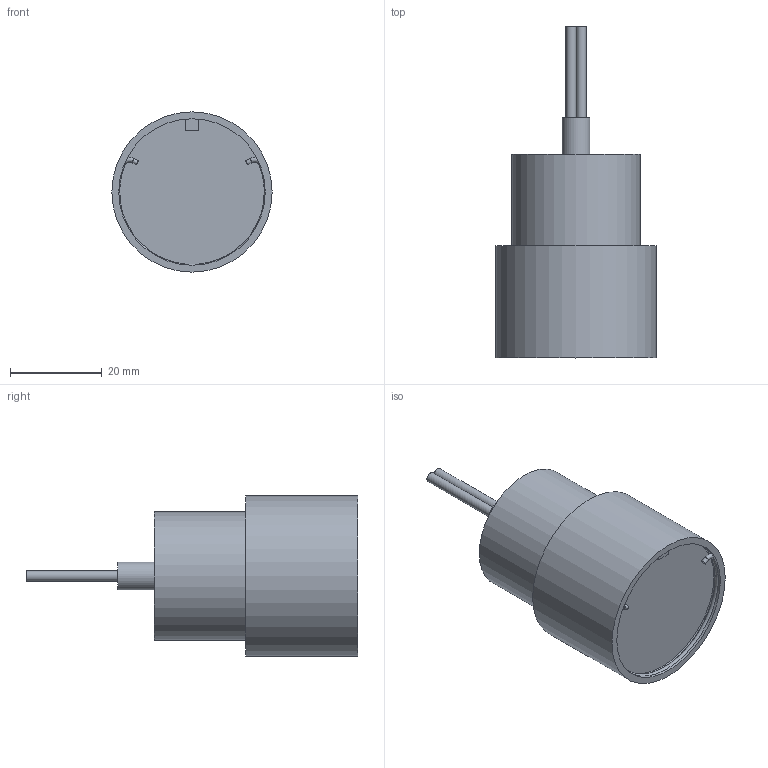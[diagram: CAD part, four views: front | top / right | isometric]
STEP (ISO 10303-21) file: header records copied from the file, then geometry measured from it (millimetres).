
FILE_DESCRIPTION(/* description */ (''),/* implementation_level */ '2;1');
FILE_NAME(/* name */ 'D:/ドキュメント/ACLT/その他/FTC_HP/HSH/3D/HSH35_01.step',/* time_stamp */ '2018-07-12T13:02:33+09:00',/* author */ ('j.masuoka@mbe.nifty.com'),/* organization */ (''),/* preprocessor_version */ 'ST-DEVELOPER v17',/* originating_system */ 'Autodesk Translation Framework v7.1.0.215',/* authorisation */ '');
FILE_SCHEMA (('AUTOMOTIVE_DESIGN { 1 0 10303 214 3 1 1 }'));
Length unit declared in the file: millimetre
Products named in the file (12): HSH35_01; 30-2B v8; SCB3-20 v2; SCB3-20 v2 (1); 30-6 v4; 30-5 v3; 30-5 v3 (1); 30-3 v4; 30-4 v7; ガラス v1; 35イタ v1; 35リングa v1
Assembly tree (11 placements, depth 2):
  HSH35_01
    30-2B v8
    SCB3-20 v2
    SCB3-20 v2 (1)
    30-6 v4
    30-5 v3
    30-5 v3 (1)
    30-3 v4
    30-4 v7
    ガラス v1
    35イタ v1
    35リングa v1
Bounding box: 35 x 72.5 x 35 mm (x, y, z)
Volume: 25864.5 mm3; surface area: 13537.2 mm2
Topology: 12 solids, 12 shells, 129 faces, 299 edges, 206 vertices
Faces by surface type: plane 62, cylinder 28, cone 27, torus 7, sphere 4, bspline 1
Full cylindrical faces by diameter (mm): 1 x2, 2 x1, 2.2 x2, 3 x2, 3.332 x2, 3.4 x2, 4 x1, 5.5 x2, 6 x2, 6.5 x2, 8 x1, 10.488 x1, 15 x2, 28 x1, 32 x3, 33.6 x1, 35 x1
Entity records: 4622 total; most frequent: CARTESIAN_POINT 1071, DIRECTION 775, ORIENTED_EDGE 590, AXIS2_PLACEMENT_3D 330, EDGE_CURVE 295, VERTEX_POINT 206, CIRCLE 179, EDGE_LOOP 151
